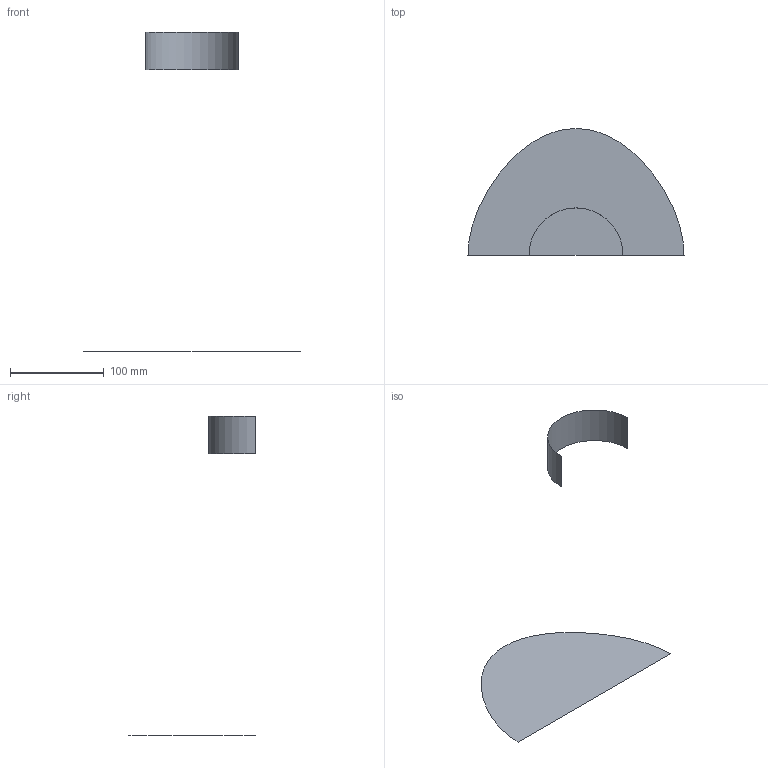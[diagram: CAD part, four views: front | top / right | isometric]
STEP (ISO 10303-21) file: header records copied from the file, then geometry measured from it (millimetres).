
FILE_DESCRIPTION(('CATIA V5 STEP Exchange'),'2;1');
FILE_NAME('C:\_Andres\UNIVERSIDAD\IQS\ASIGNATURAS\DAO\Controles\1617\c1\1original\Quiroga_Garcia_Ej00-base_v25.stp','2017-02-06T16:27:50+00:00',('none'),('none'),'CATIA Version 5-6 Release 2014 SP1 HF18','CATIA V5 STEP AP203','none');
FILE_SCHEMA(('CONFIG_CONTROL_DESIGN'));
Length unit declared in the file: millimetre
Products named in the file (1): Quiroga_Garcia_Ej00-base_v25
Bounding box: 230 x 135 x 340 mm (x, y, z)
Surface area: 29657.6 mm2 (no closed solid volume)
Topology: 0 solids, 2 shells, 2 faces, 16 edges, 26 vertices
Faces by surface type: cylinder 1, plane 1
Entity records: 230 total; most frequent: CARTESIAN_POINT 78, DIRECTION 16, COMPOSITE_CURVE_SEGMENT 9, TRIMMED_CURVE 9, AXIS2_PLACEMENT_3D 8, COMPOSITE_CURVE 7, ORIENTED_EDGE 7, EDGE_CURVE 7
